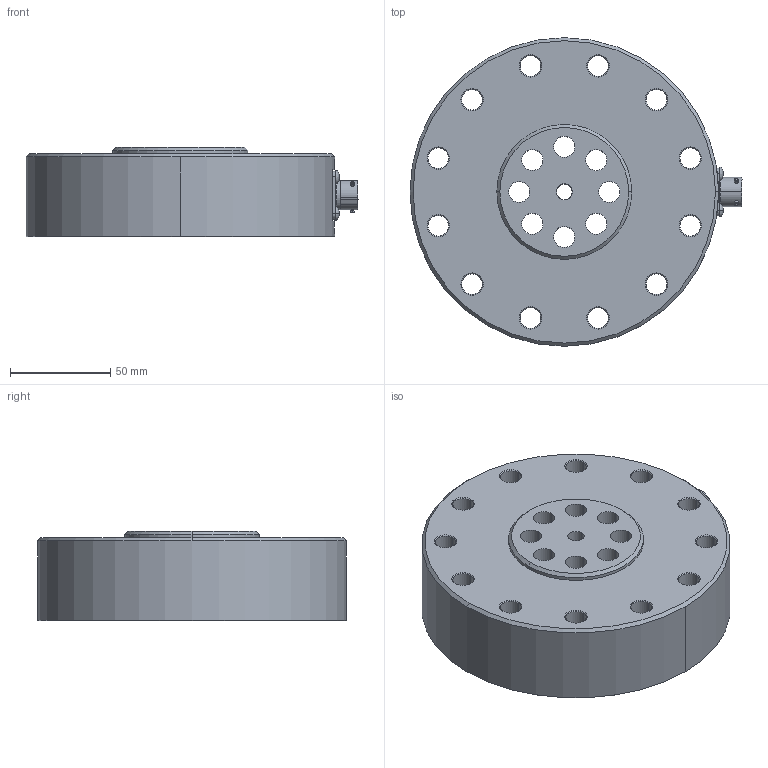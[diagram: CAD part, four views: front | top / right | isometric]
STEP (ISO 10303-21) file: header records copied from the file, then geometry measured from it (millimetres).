
FILE_DESCRIPTION (( 'STEP AP203' ), '1' );
FILE_NAME ('Interface 1228-100KN thru -140KN.STEP', '2011-06-20T22:01:36', ( ' ' ), ( '' ), 'SwSTEP 2.0', 'SolidWorks 2002349', '' );
FILE_SCHEMA (( 'CONFIG_CONTROL_DESIGN' ));
Length unit declared in the file: inch
Products named in the file (1): Interface 1228-100KN thru -140KN
Bounding box: 165.66 x 153.95 x 44.45 mm (x, y, z)
Volume: 698044.5 mm3; surface area: 84477.2 mm2
Topology: 1 solids, 1 shells, 270 faces, 639 edges, 402 vertices
Faces by surface type: cylinder 112, plane 79, cone 54, bspline 25
Entity records: 8724 total; most frequent: CARTESIAN_POINT 2459, DIRECTION 1296, ORIENTED_EDGE 1278, EDGE_CURVE 639, AXIS2_PLACEMENT_3D 519, VERTEX_POINT 402, EDGE_LOOP 343, CIRCLE 273
